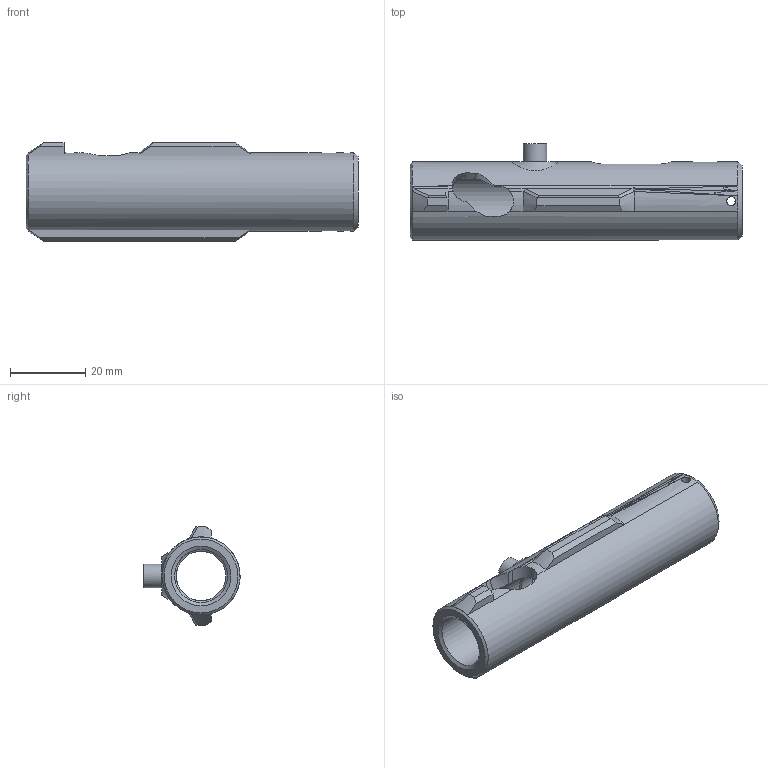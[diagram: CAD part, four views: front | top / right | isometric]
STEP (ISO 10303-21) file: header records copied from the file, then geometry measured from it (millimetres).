
FILE_DESCRIPTION(/* description */ (''),/* implementation_level */ '2;1');
FILE_NAME(/* name */ 'Bolt Carrier Metric.stp',/* time_stamp */ '2026-07-25T08:14:20-06:00',/* author */ (''),/* organization */ (''),/* preprocessor_version */ 'ST-DEVELOPER v18.102',/* originating_system */ 'SIEMENS PLM Software NX 2027',/* authorisation */ '');
FILE_SCHEMA (('AUTOMOTIVE_DESIGN { 1 0 10303 214 3 1 1 1 }'));
Length unit declared in the file: millimetre
Products named in the file (1): Bolt Carrier Metric
Bounding box: 88.12 x 25.5 x 26.16 mm (x, y, z)
Volume: 17594.4 mm3; surface area: 10195 mm2
Topology: 1 solids, 1 shells, 121 faces, 316 edges, 191 vertices
Faces by surface type: plane 60, bspline 37, cylinder 19, cone 4, extrusion 1
Full cylindrical faces by diameter (mm): 2.38 x2, 2.381 x1, 13.12 x1, 14.016 x1
Entity records: 5798 total; most frequent: CARTESIAN_POINT 3353, ORIENTED_EDGE 586, DIRECTION 331, EDGE_CURVE 293, VERTEX_POINT 184, B_SPLINE_CURVE_WITH_KNOTS 176, EDGE_LOOP 143, AXIS2_PLACEMENT_3D 128
